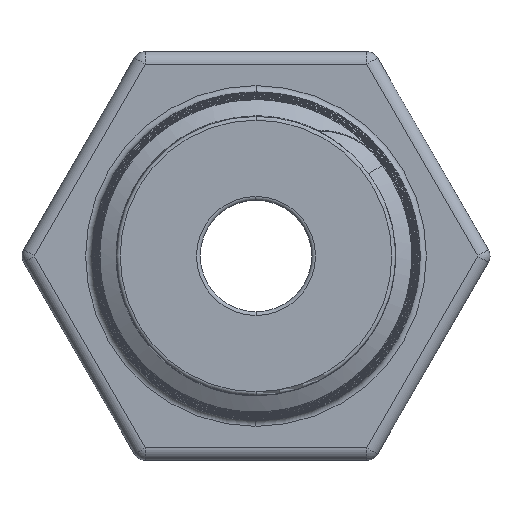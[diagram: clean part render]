
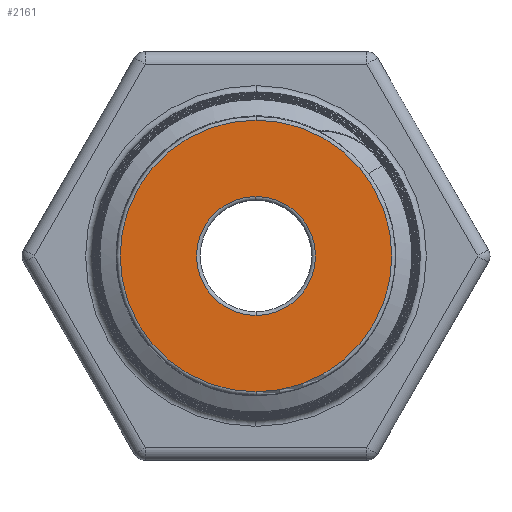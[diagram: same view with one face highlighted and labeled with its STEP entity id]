
A CAD part, front view. The second image highlights one B-rep face of the part: STEP entity #2161.
In plain terms, the highlighted planar face has unit normal (0, -1, 0).
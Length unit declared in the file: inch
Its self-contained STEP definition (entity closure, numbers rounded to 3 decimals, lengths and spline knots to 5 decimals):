
#333=CIRCLE('',#2307,0.18898);
#334=CIRCLE('',#2309,0.43177);
#335=CIRCLE('',#2310,0.43177);
#336=CIRCLE('',#2311,0.18898);
#482=VERTEX_POINT('',#8919);
#483=VERTEX_POINT('',#8921);
#484=VERTEX_POINT('',#8925);
#485=VERTEX_POINT('',#8926);
#924=EDGE_CURVE('',#482,#483,#333,.T.);
#925=EDGE_CURVE('',#484,#485,#334,.F.);
#926=EDGE_CURVE('',#485,#484,#335,.F.);
#927=EDGE_CURVE('',#483,#482,#336,.T.);
#1325=ORIENTED_EDGE('',*,*,#925,.T.);
#1326=ORIENTED_EDGE('',*,*,#926,.T.);
#1327=ORIENTED_EDGE('',*,*,#924,.T.);
#1328=ORIENTED_EDGE('',*,*,#927,.T.);
#1872=EDGE_LOOP('',(#1325,#1326));
#1873=EDGE_LOOP('',(#1327,#1328));
#2018=FACE_BOUND('',#1872,.T.);
#2019=FACE_BOUND('',#1873,.T.);
#2161=ADVANCED_FACE('',(#2018,#2019),#29707,.F.);
#2307=AXIS2_PLACEMENT_3D('',#8922,#2527,#2528);
#2308=AXIS2_PLACEMENT_3D('',#8923,#2529,$);
#2309=AXIS2_PLACEMENT_3D('',#8924,#2530,#2531);
#2310=AXIS2_PLACEMENT_3D('',#8927,#2532,#2533);
#2311=AXIS2_PLACEMENT_3D('',#8928,#2534,#2535);
#2527=DIRECTION('',(0.,1.,0.));
#2528=DIRECTION('',(0.,0.,0.189));
#2529=DIRECTION('',(0.,1.,0.));
#2530=DIRECTION('',(0.,1.,0.));
#2531=DIRECTION('',(0.,0.,0.432));
#2532=DIRECTION('',(0.,1.,0.));
#2533=DIRECTION('',(0.,0.,0.432));
#2534=DIRECTION('',(0.,1.,0.));
#2535=DIRECTION('',(0.,0.,0.189));
#8919=CARTESIAN_POINT('',(0.,-0.98425,-0.18898));
#8921=CARTESIAN_POINT('',(0.,-0.98425,0.18898));
#8922=CARTESIAN_POINT('',(0.,-0.98425,0.));
#8923=CARTESIAN_POINT('',(0.,-0.98425,0.));
#8924=CARTESIAN_POINT('',(0.,-0.98425,0.));
#8925=CARTESIAN_POINT('',(0.,-0.98425,0.43177));
#8926=CARTESIAN_POINT('',(0.,-0.98425,-0.43177));
#8927=CARTESIAN_POINT('',(0.,-0.98425,0.));
#8928=CARTESIAN_POINT('',(0.,-0.98425,0.));
#29707=PLANE('',#2308);
